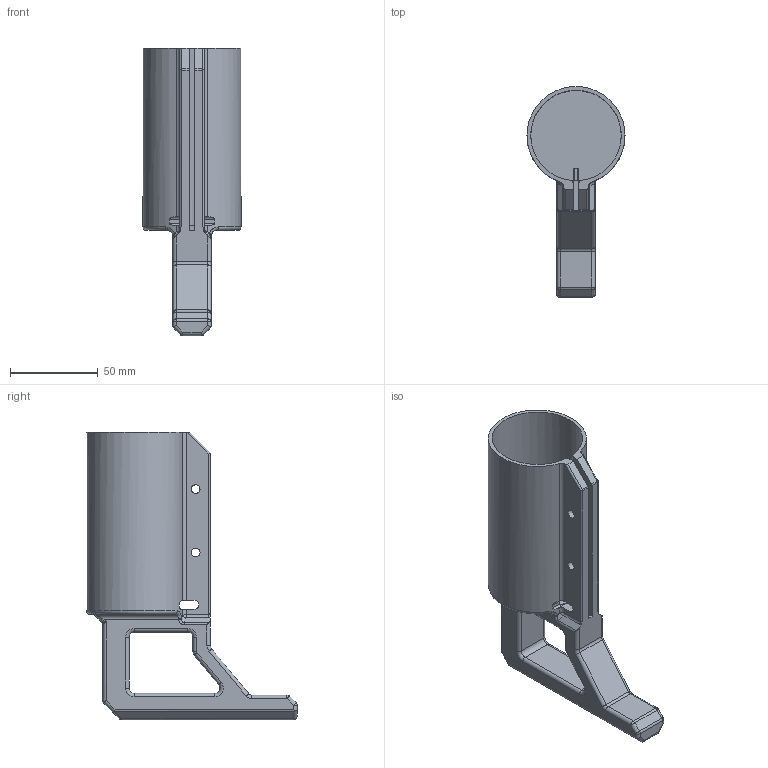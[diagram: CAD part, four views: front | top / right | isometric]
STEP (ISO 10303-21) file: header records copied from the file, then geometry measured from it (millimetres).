
FILE_DESCRIPTION(/* description */ ('Unknown'),/* implementation_level */ '2;1');
FILE_NAME(/* name */ 'Kolba Sport',/* time_stamp */ '2025-07-28T14:39:21+02:00',/* author */ ('Unknown'),/* organization */ ('Unknown'),/* preprocessor_version */ 'ST-DEVELOPER v16.7',/* originating_system */ 'DEX',/* authorisation */ $);
FILE_SCHEMA (('AUTOMOTIVE_DESIGN {1 0 10303 214 3 1 1}'));
Length unit declared in the file: millimetre
Products named in the file (1): Kolba Sport
Bounding box: 55.9 x 120 x 163.89 mm (x, y, z)
Volume: 124451.6 mm3; surface area: 58453.5 mm2
Topology: 1 solids, 1 shells, 188 faces, 491 edges, 296 vertices
Faces by surface type: cylinder 82, plane 57, bspline 24, torus 17, sphere 8
Full cylindrical faces by diameter (mm): 5 x4
Entity records: 7326 total; most frequent: CARTESIAN_POINT 1452, DIRECTION 973, ORIENTED_EDGE 952, EDGE_CURVE 476, AXIS2_PLACEMENT_3D 372, VERTEX_POINT 292, LINE 229, VECTOR 229
